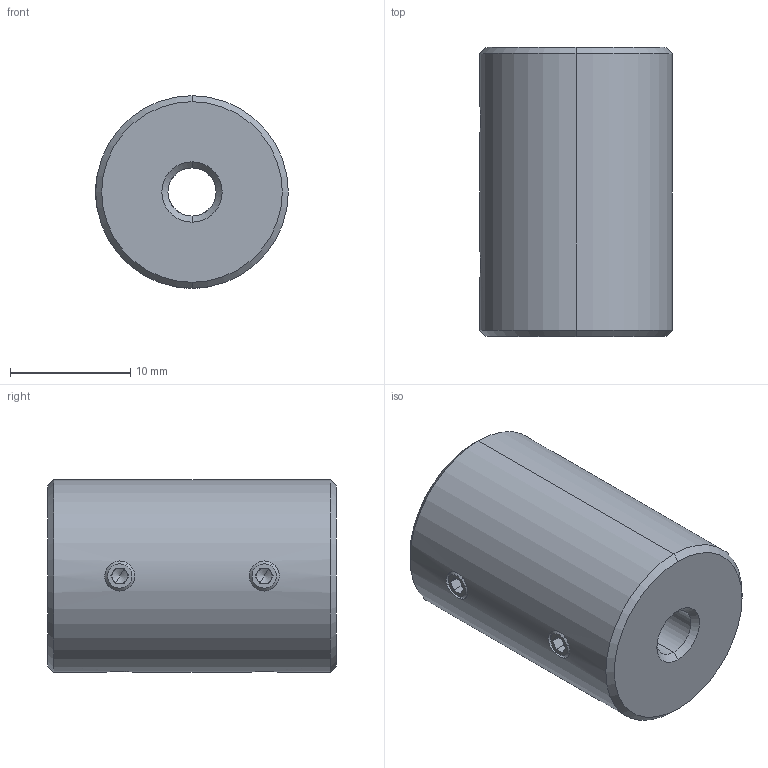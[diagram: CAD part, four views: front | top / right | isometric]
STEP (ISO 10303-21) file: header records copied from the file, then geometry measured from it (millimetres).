
FILE_DESCRIPTION (( 'STEP AP214' ), '1' );
FILE_NAME ('LL-D-D16L24-4-4.STEP', '2022-07-23T06:59:11', ( '' ), ( '' ), 'SwSTEP 2.0', 'SolidWorks 2022', '' );
FILE_SCHEMA (( 'AUTOMOTIVE_DESIGN' ));
Length unit declared in the file: millimetre
Products named in the file (1): LL-D-D16L24-4-4
Bounding box: 16 x 24 x 16 mm (x, y, z)
Volume: 4455.4 mm3; surface area: 1968.8 mm2
Topology: 1 solids, 1 shells, 110 faces, 280 edges, 172 vertices
Faces by surface type: plane 58, cone 32, cylinder 20
Entity records: 3558 total; most frequent: CARTESIAN_POINT 875, DIRECTION 566, ORIENTED_EDGE 544, EDGE_CURVE 272, AXIS2_PLACEMENT_3D 207, VERTEX_POINT 172, VECTOR 152, LINE 152
